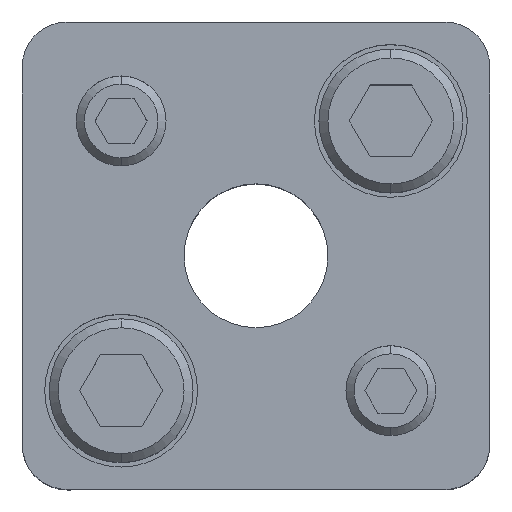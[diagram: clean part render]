
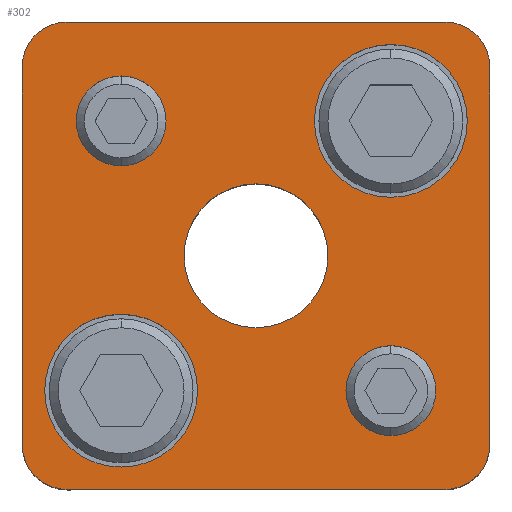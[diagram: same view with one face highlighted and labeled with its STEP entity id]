
A CAD part, top view. The second image highlights one B-rep face of the part: STEP entity #302.
In plain terms, the highlighted planar face has unit normal (0, 0, 1).
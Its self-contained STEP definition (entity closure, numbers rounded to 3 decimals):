
#161=PLANE('',#2460);
#224=FACE_BOUND('',#627,.T.);
#225=FACE_BOUND('',#628,.T.);
#226=FACE_BOUND('',#629,.T.);
#227=FACE_BOUND('',#630,.T.);
#228=FACE_BOUND('',#631,.T.);
#229=FACE_BOUND('',#632,.T.);
#302=ADVANCED_FACE('',(#224,#225,#226,#227,#228,#229),#161,.T.);
#627=EDGE_LOOP('',(#1277,#1278,#1279,#1280,#1281,#1282,#1283,#1284));
#628=EDGE_LOOP('',(#1285,#1286));
#629=EDGE_LOOP('',(#1287,#1288));
#630=EDGE_LOOP('',(#1289,#1290));
#631=EDGE_LOOP('',(#1291,#1292));
#632=EDGE_LOOP('',(#1293,#1294));
#779=LINE('',#3601,#949);
#780=LINE('',#3605,#950);
#781=LINE('',#3609,#951);
#782=LINE('',#3613,#952);
#949=VECTOR('',#2877,1.);
#950=VECTOR('',#2880,1.);
#951=VECTOR('',#2883,1.);
#952=VECTOR('',#2886,1.);
#1277=ORIENTED_EDGE('',*,*,#2005,.T.);
#1278=ORIENTED_EDGE('',*,*,#2006,.T.);
#1279=ORIENTED_EDGE('',*,*,#2007,.T.);
#1280=ORIENTED_EDGE('',*,*,#2008,.T.);
#1281=ORIENTED_EDGE('',*,*,#2009,.T.);
#1282=ORIENTED_EDGE('',*,*,#2010,.T.);
#1283=ORIENTED_EDGE('',*,*,#2011,.T.);
#1284=ORIENTED_EDGE('',*,*,#2012,.T.);
#1285=ORIENTED_EDGE('',*,*,#2013,.F.);
#1286=ORIENTED_EDGE('',*,*,#2014,.F.);
#1287=ORIENTED_EDGE('',*,*,#2015,.F.);
#1288=ORIENTED_EDGE('',*,*,#2016,.F.);
#1289=ORIENTED_EDGE('',*,*,#1991,.F.);
#1290=ORIENTED_EDGE('',*,*,#1987,.F.);
#1291=ORIENTED_EDGE('',*,*,#1985,.F.);
#1292=ORIENTED_EDGE('',*,*,#1981,.F.);
#1293=ORIENTED_EDGE('',*,*,#2017,.T.);
#1294=ORIENTED_EDGE('',*,*,#2018,.T.);
#1755=VERTEX_POINT('',#3549);
#1756=VERTEX_POINT('',#3550);
#1759=VERTEX_POINT('',#3562);
#1760=VERTEX_POINT('',#3563);
#1771=VERTEX_POINT('',#3599);
#1772=VERTEX_POINT('',#3600);
#1773=VERTEX_POINT('',#3602);
#1774=VERTEX_POINT('',#3604);
#1775=VERTEX_POINT('',#3606);
#1776=VERTEX_POINT('',#3608);
#1777=VERTEX_POINT('',#3610);
#1778=VERTEX_POINT('',#3612);
#1779=VERTEX_POINT('',#3615);
#1780=VERTEX_POINT('',#3616);
#1781=VERTEX_POINT('',#3619);
#1782=VERTEX_POINT('',#3620);
#1783=VERTEX_POINT('',#3623);
#1784=VERTEX_POINT('',#3624);
#1981=EDGE_CURVE('',#1755,#1756,#2255,.T.);
#1985=EDGE_CURVE('',#1756,#1755,#2257,.T.);
#1987=EDGE_CURVE('',#1759,#1760,#2259,.T.);
#1991=EDGE_CURVE('',#1760,#1759,#2261,.T.);
#2005=EDGE_CURVE('',#1771,#1772,#2271,.T.);
#2006=EDGE_CURVE('',#1772,#1773,#779,.T.);
#2007=EDGE_CURVE('',#1773,#1774,#2272,.T.);
#2008=EDGE_CURVE('',#1774,#1775,#780,.T.);
#2009=EDGE_CURVE('',#1775,#1776,#2273,.T.);
#2010=EDGE_CURVE('',#1776,#1777,#781,.T.);
#2011=EDGE_CURVE('',#1777,#1778,#2274,.T.);
#2012=EDGE_CURVE('',#1778,#1771,#782,.T.);
#2013=EDGE_CURVE('',#1779,#1780,#2275,.T.);
#2014=EDGE_CURVE('',#1780,#1779,#2276,.T.);
#2015=EDGE_CURVE('',#1781,#1782,#2277,.T.);
#2016=EDGE_CURVE('',#1782,#1781,#2278,.T.);
#2017=EDGE_CURVE('',#1783,#1784,#2279,.T.);
#2018=EDGE_CURVE('',#1784,#1783,#2280,.T.);
#2255=CIRCLE('',#2424,5.);
#2257=CIRCLE('',#2427,5.);
#2259=CIRCLE('',#2431,5.);
#2261=CIRCLE('',#2434,5.);
#2271=CIRCLE('',#2450,5.);
#2272=CIRCLE('',#2451,5.);
#2273=CIRCLE('',#2452,5.);
#2274=CIRCLE('',#2453,5.);
#2275=CIRCLE('',#2454,8.5);
#2276=CIRCLE('',#2455,8.5);
#2277=CIRCLE('',#2456,8.5);
#2278=CIRCLE('',#2457,8.5);
#2279=CIRCLE('',#2458,8.);
#2280=CIRCLE('',#2459,8.);
#2424=AXIS2_PLACEMENT_3D('',#3548,#2815,#2816);
#2427=AXIS2_PLACEMENT_3D('',#3557,#2823,#2824);
#2431=AXIS2_PLACEMENT_3D('',#3561,#2831,#2832);
#2434=AXIS2_PLACEMENT_3D('',#3570,#2839,#2840);
#2450=AXIS2_PLACEMENT_3D('',#3598,#2875,#2876);
#2451=AXIS2_PLACEMENT_3D('',#3603,#2878,#2879);
#2452=AXIS2_PLACEMENT_3D('',#3607,#2881,#2882);
#2453=AXIS2_PLACEMENT_3D('',#3611,#2884,#2885);
#2454=AXIS2_PLACEMENT_3D('',#3614,#2887,#2888);
#2455=AXIS2_PLACEMENT_3D('',#3617,#2889,#2890);
#2456=AXIS2_PLACEMENT_3D('',#3618,#2891,#2892);
#2457=AXIS2_PLACEMENT_3D('',#3621,#2893,#2894);
#2458=AXIS2_PLACEMENT_3D('',#3622,#2895,#2896);
#2459=AXIS2_PLACEMENT_3D('',#3625,#2897,#2898);
#2460=AXIS2_PLACEMENT_3D('',#3626,#2899,#2900);
#2815=DIRECTION('',(0.,0.,1.));
#2816=DIRECTION('',(-1.,0.,0.));
#2823=DIRECTION('',(0.,0.,1.));
#2824=DIRECTION('',(1.,0.,0.));
#2831=DIRECTION('',(0.,0.,1.));
#2832=DIRECTION('',(-1.,0.,0.));
#2839=DIRECTION('',(0.,0.,1.));
#2840=DIRECTION('',(1.,0.,0.));
#2875=DIRECTION('',(0.,0.,1.));
#2876=DIRECTION('',(-0.707,0.707,0.));
#2877=DIRECTION('',(0.,1.,0.));
#2878=DIRECTION('',(0.,0.,1.));
#2879=DIRECTION('',(-0.707,-0.707,0.));
#2880=DIRECTION('',(-1.,0.,0.));
#2881=DIRECTION('',(0.,0.,1.));
#2882=DIRECTION('',(0.707,-0.707,0.));
#2883=DIRECTION('',(0.,-1.,0.));
#2884=DIRECTION('',(0.,0.,1.));
#2885=DIRECTION('',(0.707,0.707,0.));
#2886=DIRECTION('',(1.,0.,0.));
#2887=DIRECTION('',(0.,0.,1.));
#2888=DIRECTION('',(1.,0.,0.));
#2889=DIRECTION('',(0.,0.,1.));
#2890=DIRECTION('',(-1.,0.,0.));
#2891=DIRECTION('',(0.,0.,1.));
#2892=DIRECTION('',(1.,0.,0.));
#2893=DIRECTION('',(0.,0.,1.));
#2894=DIRECTION('',(-1.,0.,0.));
#2895=DIRECTION('',(0.,0.,-1.));
#2896=DIRECTION('',(-1.,0.,0.));
#2897=DIRECTION('',(0.,0.,-1.));
#2898=DIRECTION('',(1.,0.,0.));
#2899=DIRECTION('',(0.,0.,1.));
#2900=DIRECTION('',(-1.,0.,0.));
#3548=CARTESIAN_POINT('',(15.,-15.,30.));
#3549=CARTESIAN_POINT('',(15.,-20.,30.));
#3550=CARTESIAN_POINT('',(15.,-10.,30.));
#3557=CARTESIAN_POINT('',(15.,-15.,30.));
#3561=CARTESIAN_POINT('',(-15.,15.,30.));
#3562=CARTESIAN_POINT('',(-15.,10.,30.));
#3563=CARTESIAN_POINT('',(-15.,20.,30.));
#3570=CARTESIAN_POINT('',(-15.,15.,30.));
#3598=CARTESIAN_POINT('',(21.,-21.,30.));
#3599=CARTESIAN_POINT('',(21.,-26.,30.));
#3600=CARTESIAN_POINT('',(26.,-21.,30.));
#3601=CARTESIAN_POINT('',(26.,21.,30.));
#3602=CARTESIAN_POINT('',(26.,21.,30.));
#3603=CARTESIAN_POINT('',(21.,21.,30.));
#3604=CARTESIAN_POINT('',(21.,26.,30.));
#3605=CARTESIAN_POINT('',(-21.,26.,30.));
#3606=CARTESIAN_POINT('',(-21.,26.,30.));
#3607=CARTESIAN_POINT('',(-21.,21.,30.));
#3608=CARTESIAN_POINT('',(-26.,21.,30.));
#3609=CARTESIAN_POINT('',(-26.,21.,30.));
#3610=CARTESIAN_POINT('',(-26.,-21.,30.));
#3611=CARTESIAN_POINT('',(-21.,-21.,30.));
#3612=CARTESIAN_POINT('',(-21.,-26.,30.));
#3613=CARTESIAN_POINT('',(-21.,-26.,30.));
#3614=CARTESIAN_POINT('',(15.,15.,30.));
#3615=CARTESIAN_POINT('',(15.,23.5,30.));
#3616=CARTESIAN_POINT('',(15.,6.5,30.));
#3617=CARTESIAN_POINT('',(15.,15.,30.));
#3618=CARTESIAN_POINT('',(-15.,-15.,30.));
#3619=CARTESIAN_POINT('',(-15.,-6.5,30.));
#3620=CARTESIAN_POINT('',(-15.,-23.5,30.));
#3621=CARTESIAN_POINT('',(-15.,-15.,30.));
#3622=CARTESIAN_POINT('',(0.,0.,30.));
#3623=CARTESIAN_POINT('',(0.,8.,30.));
#3624=CARTESIAN_POINT('',(0.,-8.,30.));
#3625=CARTESIAN_POINT('',(0.,0.,30.));
#3626=CARTESIAN_POINT('',(21.,-26.,30.));
